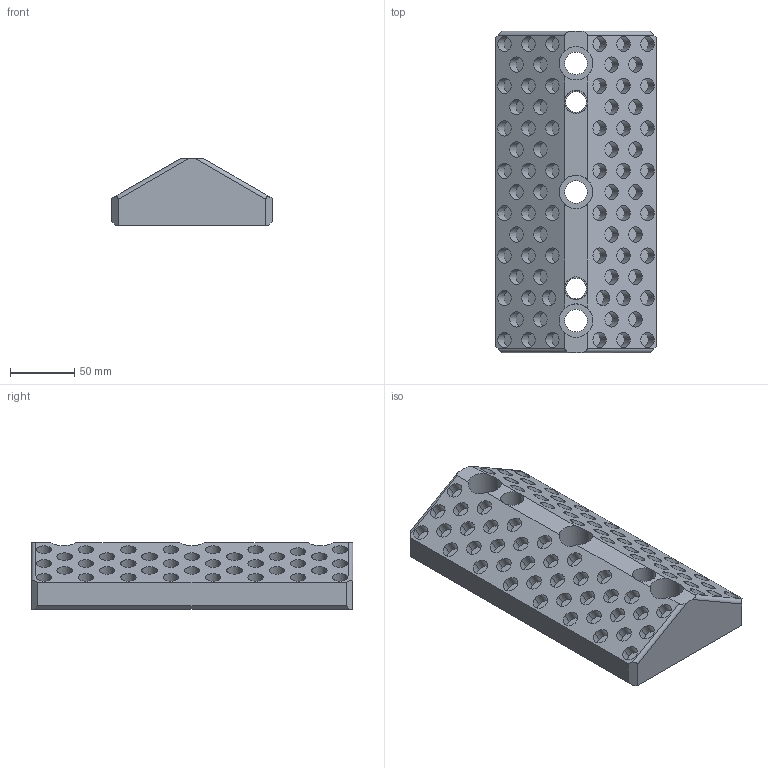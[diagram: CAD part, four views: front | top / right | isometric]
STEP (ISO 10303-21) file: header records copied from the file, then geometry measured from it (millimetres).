
FILE_DESCRIPTION (( 'STEP AP214' ), '1' );
FILE_NAME ('SW232-03-125x250.STEP', '2020-10-21T09:14:49', ( 'August' ), ( '' ), 'SwSTEP 2.0', 'SolidWorks 2018', '' );
FILE_SCHEMA (( 'AUTOMOTIVE_DESIGN' ));
Length unit declared in the file: millimetre
Products named in the file (1): SW232-03-125x250
Bounding box: 125 x 250 x 52 mm (x, y, z)
Volume: 1030487.4 mm3; surface area: 126406.1 mm2
Topology: 1 solids, 1 shells, 276 faces, 594 edges, 396 vertices
Faces by surface type: cylinder 176, plane 100
Entity records: 8730 total; most frequent: CARTESIAN_POINT 1821, DIRECTION 1456, ORIENTED_EDGE 1188, AXIS2_PLACEMENT_3D 617, EDGE_CURVE 594, VERTEX_POINT 396, EDGE_LOOP 362, CIRCLE 340
